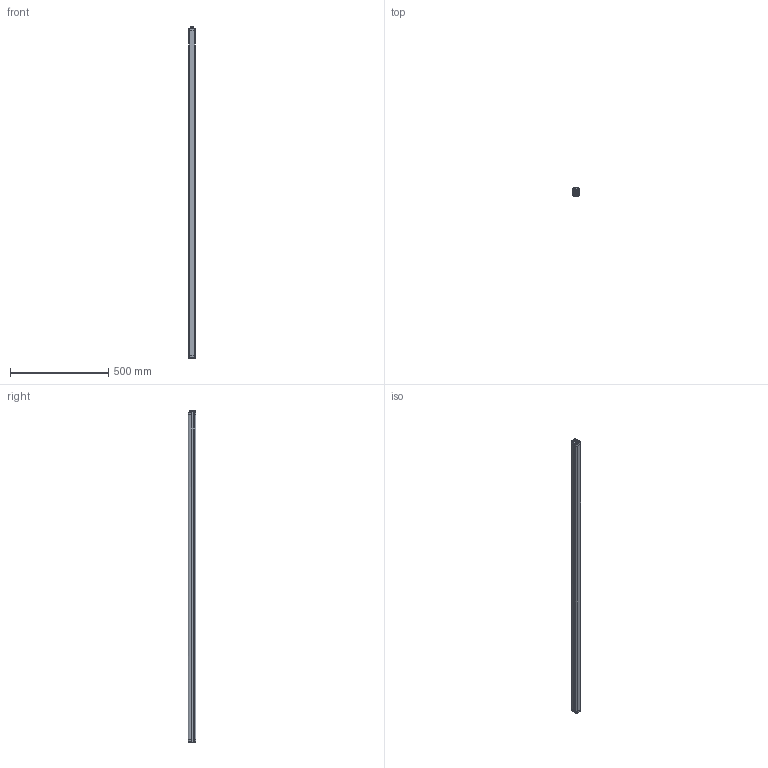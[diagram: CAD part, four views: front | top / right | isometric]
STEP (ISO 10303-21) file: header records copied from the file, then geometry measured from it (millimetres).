
FILE_DESCRIPTION(/* description */ (''),/* implementation_level */ '2;1');
FILE_NAME(/* name */ 'AP021389_00_1-DSD-0976 - DS2-05-07-165 RX.stp',/* time_stamp */ '2019-11-26T14:33:36+01:00',/* author */ (''),/* organization */ (''),/* preprocessor_version */ 'ST-DEVELOPER v16.7',/* originating_system */ 'SIEMENS PLM Software NX 12.0',/* authorisation */ '');
FILE_SCHEMA (('AUTOMOTIVE_DESIGN { 1 0 10303 214 3 1 1 1 }'));
Length unit declared in the file: millimetre
Products named in the file (1): fgut3C702637kger
Bounding box: 35 x 40 x 1686.7 mm (x, y, z)
Volume: 2033439.2 mm3; surface area: 327889.4 mm2
Topology: 2 solids, 5 shells, 896 faces, 2317 edges, 1444 vertices
Faces by surface type: plane 312, cylinder 301, bspline 153, cone 82, sphere 26, torus 22
Full cylindrical faces by diameter (mm): 0.8 x8, 1 x4, 2 x1, 2.4 x2, 2.6 x4, 3.5 x4, 3.7 x4, 5 x8, 8.3 x1, 8.45 x1, 10.45 x1, 10.5 x1, 10.55 x2, 12 x16, 14 x2, 14.5 x2
Entity records: 39159 total; most frequent: CARTESIAN_POINT 14056, ORIENTED_EDGE 4470, DIRECTION 3495, EDGE_CURVE 2235, VERTEX_POINT 1436, AXIS2_PLACEMENT_3D 1399, EDGE_LOOP 983, ADVANCED_FACE 896
